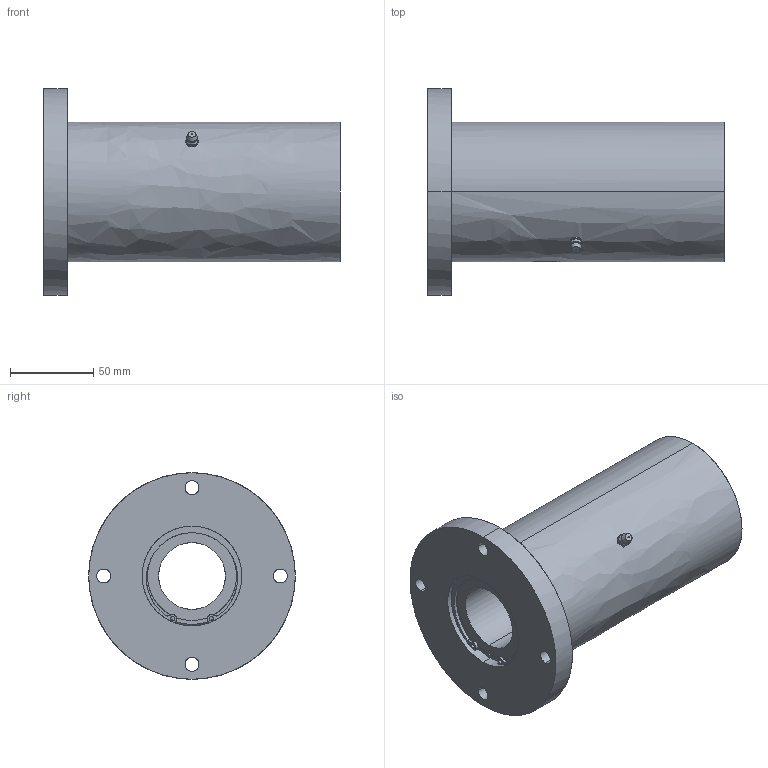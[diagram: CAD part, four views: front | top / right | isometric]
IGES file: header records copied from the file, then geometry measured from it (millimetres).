
Global section: file name: No Iges File Name specified; native system: AutoDesk Inventor R10; preprocessor: AutoDesk Inventor Iges Exporter R10; author: No Author specified; organization: No Organization specified; date: 20101214.142141; units: millimetre
Bounding box: 178 x 124 x 124 mm (x, y, z)
Surface area: 107761.1 mm2 (no closed solid volume)
Topology: 0 solids, 0 shells, 147 faces, 1028 edges, 1026 vertices
Faces by surface type: bspline 147
